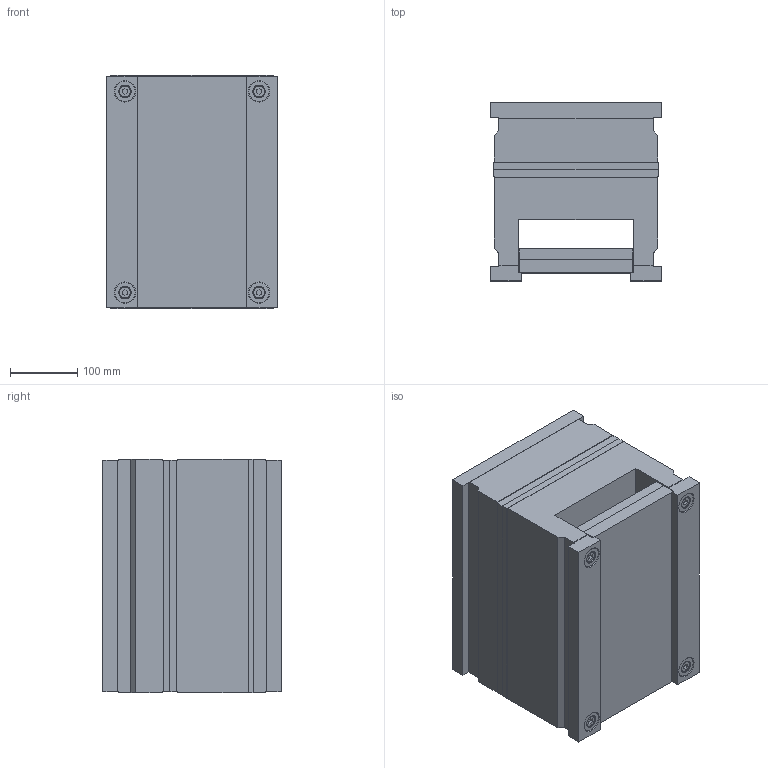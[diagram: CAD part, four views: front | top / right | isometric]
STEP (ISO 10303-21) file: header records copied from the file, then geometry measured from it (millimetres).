
FILE_DESCRIPTION (( 'STEP AP214' ), '1' );
FILE_NAME ('2463.STEP', '2002-07-10T07:54:18', ( 'Simcha Kilim' ), ( 'K. Plastics Engineering' ), 'SwSTEP 2.0', 'SolidWorks 2002025', '' );
FILE_SCHEMA (( 'AUTOMOTIVE_DESIGN' ));
Length unit declared in the file: millimetre
Products named in the file (12): 2463; ALMO (hot half)_2463; ALMO (ejector plate)_2463; ALMO (ejector return plate)_2463; ALMO (ejector half)_2463; ALMO (guide bush)_Ø19; ALMO (key plate)_Ø18; ALMO (guide bush)_Ø18; ALMO (guide pin)_Ø19; ALMO (guide pin)_Ø18; ALMO (screw)_M10x120; ALMO (screw)_M10x70
Assembly tree (28 placements, depth 2):
  2463
    ALMO (guide bush)_Ø18  x3
    ALMO (ejector return plate)_2463
    ALMO (ejector half)_2463
    ALMO (key plate)_Ø18  x8
    ALMO (screw)_M10x70  x4
    ALMO (screw)_M10x120  x4
    ALMO (hot half)_2463
    ALMO (guide pin)_Ø18  x3
    ALMO (guide bush)_Ø19
    ALMO (guide pin)_Ø19
    ALMO (ejector plate)_2463
Bounding box: 255 x 266 x 348 mm (x, y, z)
Volume: 19040369.1 mm3; surface area: 1174822.3 mm2
Topology: 28 solids, 28 shells, 706 faces, 1496 edges, 924 vertices
Faces by surface type: cylinder 260, plane 254, cone 192
Entity records: 10477 total; most frequent: DIRECTION 1914, CARTESIAN_POINT 1683, ORIENTED_EDGE 1584, EDGE_CURVE 792, AXIS2_PLACEMENT_3D 729, VERTEX_POINT 498, LINE 456, VECTOR 456
